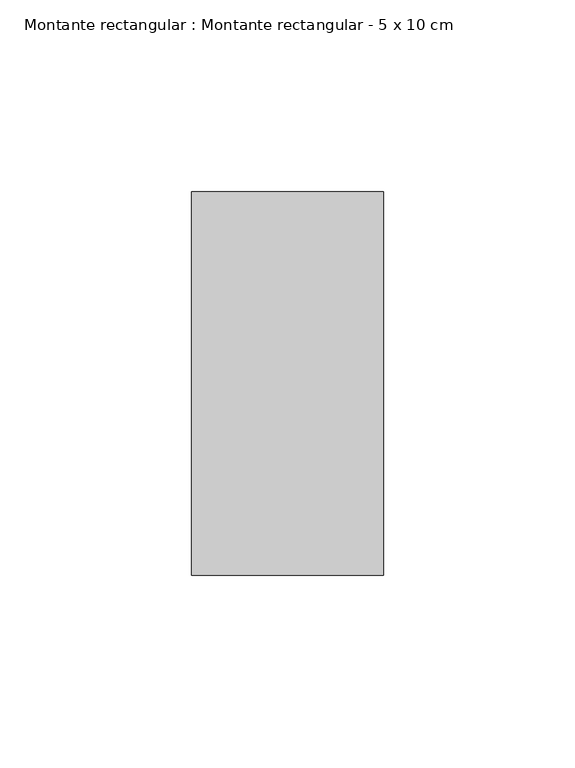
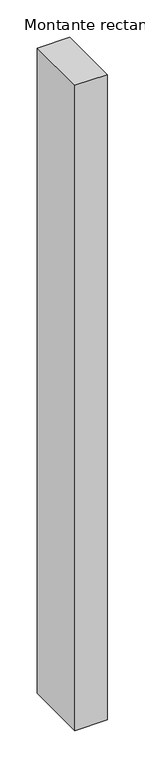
"""IFC4 building model written with IfcOpenShell, lengths in millimetres: member geometry, Montante rectangular : Montante rectangular - 5 x 10 cm."""

from ifc_helpers import new_model, si_unit, frame, origin, place, context, project, spatial, polyline, outline, extrude, source, transform, mapped, element, save


def montante_rectangular_montante_rectangular_5_x_10_cm_0b0cc918(model_context):
    return source(origin(), model_context, "Body", "SweptSolid", [
        extrude(outline(polyline([(-50.0, 50.0), (0.0, 50.0), (0.0, -50.0), (-50.0, -50.0), (-50.0, 50.0)])), frame((0.0, 0.0, -1050.0), z_axis=(0.0, 0.0, 1.0), x_axis=(1.0, 0.0, 0.0)), (0.0, 0.0, 1.0), 1050.0),
    ])


if __name__ == "__main__":
    model = new_model("IFC4")
    model_context = context("Model", 3, world=origin())
    ifc_project = project(units=[si_unit("LENGTHUNIT", "METRE", prefix="MILLI")], contexts=[model_context])
    site = spatial("IfcSite", under=ifc_project)
    building = spatial("IfcBuilding", under=site)
    placement = place(None, origin())
    montante_rectangular_montante_rectangular_5_x_10_cm_shape = montante_rectangular_montante_rectangular_5_x_10_cm_0b0cc918(model_context)
    element("IfcMember", 1, ObjectType="Montante rectangular : Montante rectangular - 5 x 10 cm", at=placement, inside=building, context=model_context, shape_type="MappedRepresentation", body=[
        mapped(montante_rectangular_montante_rectangular_5_x_10_cm_shape, transform((0.0, 0.0, 0.0), x_axis=(1.0, 0.0, 0.0), y_axis=(0.0, 1.0, 0.0), z_axis=(0.0, 0.0, 1.0))),
    ])
    save(model, "model.ifc")
